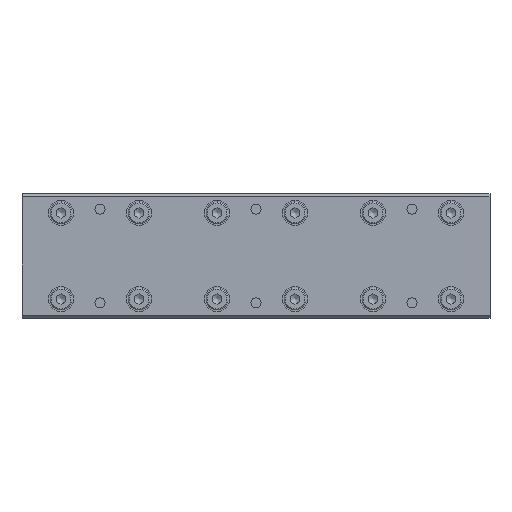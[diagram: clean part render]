
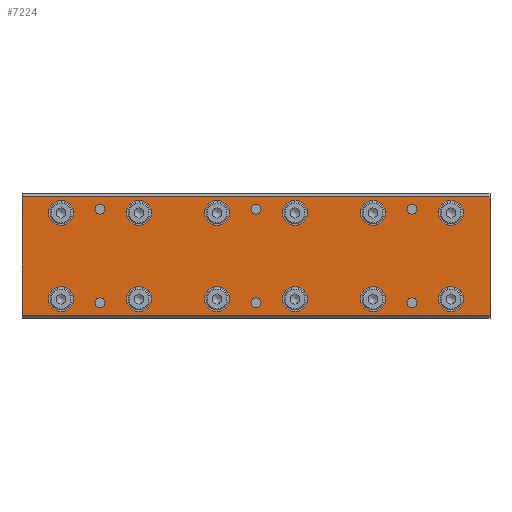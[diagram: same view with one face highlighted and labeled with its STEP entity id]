
A CAD part, top view. The second image highlights one B-rep face of the part: STEP entity #7224.
In plain terms, the highlighted planar face has unit normal (0, 0, 1).
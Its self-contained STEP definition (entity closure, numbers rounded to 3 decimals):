
#5826=CARTESIAN_POINT('',(150.0,19.0,10.));
#5827=VERTEX_POINT('',#5826);
#5834=CARTESIAN_POINT('',(150.0,-19.0,10.));
#5835=VERTEX_POINT('',#5834);
#5836=CARTESIAN_POINT('',(150.0,-19.0,10.));
#5837=DIRECTION('',(0.0,1.0,0.0));
#5838=VECTOR('',#5837,38.0);
#5839=LINE('',#5836,#5838);
#5840=EDGE_CURVE('',#5835,#5827,#5839,.T.);
#5979=CARTESIAN_POINT('',(16.5,-13.8,10.));
#5980=VERTEX_POINT('',#5979);
#5981=CARTESIAN_POINT('',(12.5,-13.8,10.));
#5982=DIRECTION('',(0.0,0.0,-1.0));
#5983=DIRECTION('',(1.0,0.0,0.0));
#5984=AXIS2_PLACEMENT_3D('',#5981,#5982,#5983);
#5985=CIRCLE('',#5984,4.0);
#5986=EDGE_CURVE('',#5980,#5980,#5985,.T.);
#6048=CARTESIAN_POINT('',(16.5,13.8,10.));
#6049=VERTEX_POINT('',#6048);
#6050=CARTESIAN_POINT('',(12.5,13.8,10.));
#6051=DIRECTION('',(0.0,0.0,-1.0));
#6052=DIRECTION('',(1.0,0.0,0.0));
#6053=AXIS2_PLACEMENT_3D('',#6050,#6051,#6052);
#6054=CIRCLE('',#6053,4.0);
#6055=EDGE_CURVE('',#6049,#6049,#6054,.T.);
#6129=CARTESIAN_POINT('',(41.5,-13.8,10.));
#6130=VERTEX_POINT('',#6129);
#6131=CARTESIAN_POINT('',(37.5,-13.8,10.));
#6132=DIRECTION('',(0.0,0.0,-1.0));
#6133=DIRECTION('',(1.0,0.0,0.0));
#6134=AXIS2_PLACEMENT_3D('',#6131,#6132,#6133);
#6135=CIRCLE('',#6134,4.0);
#6136=EDGE_CURVE('',#6130,#6130,#6135,.T.);
#6170=CARTESIAN_POINT('',(41.5,13.8,10.));
#6171=VERTEX_POINT('',#6170);
#6172=CARTESIAN_POINT('',(37.5,13.8,10.));
#6173=DIRECTION('',(0.0,0.0,-1.0));
#6174=DIRECTION('',(1.0,0.0,0.0));
#6175=AXIS2_PLACEMENT_3D('',#6172,#6173,#6174);
#6176=CIRCLE('',#6175,4.0);
#6177=EDGE_CURVE('',#6171,#6171,#6176,.T.);
#6251=CARTESIAN_POINT('',(66.5,-13.8,10.));
#6252=VERTEX_POINT('',#6251);
#6253=CARTESIAN_POINT('',(62.5,-13.8,10.));
#6254=DIRECTION('',(0.0,0.0,-1.0));
#6255=DIRECTION('',(1.0,0.0,0.0));
#6256=AXIS2_PLACEMENT_3D('',#6253,#6254,#6255);
#6257=CIRCLE('',#6256,4.0);
#6258=EDGE_CURVE('',#6252,#6252,#6257,.T.);
#6292=CARTESIAN_POINT('',(66.5,13.8,10.));
#6293=VERTEX_POINT('',#6292);
#6294=CARTESIAN_POINT('',(62.5,13.8,10.));
#6295=DIRECTION('',(0.0,0.0,-1.0));
#6296=DIRECTION('',(1.0,0.0,0.0));
#6297=AXIS2_PLACEMENT_3D('',#6294,#6295,#6296);
#6298=CIRCLE('',#6297,4.0);
#6299=EDGE_CURVE('',#6293,#6293,#6298,.T.);
#6373=CARTESIAN_POINT('',(91.5,-13.8,10.));
#6374=VERTEX_POINT('',#6373);
#6375=CARTESIAN_POINT('',(87.5,-13.8,10.));
#6376=DIRECTION('',(0.0,0.0,-1.0));
#6377=DIRECTION('',(1.0,0.0,0.0));
#6378=AXIS2_PLACEMENT_3D('',#6375,#6376,#6377);
#6379=CIRCLE('',#6378,4.0);
#6380=EDGE_CURVE('',#6374,#6374,#6379,.T.);
#6414=CARTESIAN_POINT('',(91.5,13.8,10.));
#6415=VERTEX_POINT('',#6414);
#6416=CARTESIAN_POINT('',(87.5,13.8,10.));
#6417=DIRECTION('',(0.0,0.0,-1.0));
#6418=DIRECTION('',(1.0,0.0,0.0));
#6419=AXIS2_PLACEMENT_3D('',#6416,#6417,#6418);
#6420=CIRCLE('',#6419,4.0);
#6421=EDGE_CURVE('',#6415,#6415,#6420,.T.);
#6495=CARTESIAN_POINT('',(116.5,-13.8,10.));
#6496=VERTEX_POINT('',#6495);
#6497=CARTESIAN_POINT('',(112.5,-13.8,10.));
#6498=DIRECTION('',(0.0,0.0,-1.0));
#6499=DIRECTION('',(1.0,0.0,0.0));
#6500=AXIS2_PLACEMENT_3D('',#6497,#6498,#6499);
#6501=CIRCLE('',#6500,4.0);
#6502=EDGE_CURVE('',#6496,#6496,#6501,.T.);
#6536=CARTESIAN_POINT('',(116.5,13.8,10.));
#6537=VERTEX_POINT('',#6536);
#6538=CARTESIAN_POINT('',(112.5,13.8,10.));
#6539=DIRECTION('',(0.0,0.0,-1.0));
#6540=DIRECTION('',(1.0,0.0,0.0));
#6541=AXIS2_PLACEMENT_3D('',#6538,#6539,#6540);
#6542=CIRCLE('',#6541,4.0);
#6543=EDGE_CURVE('',#6537,#6537,#6542,.T.);
#6617=CARTESIAN_POINT('',(141.5,-13.8,10.));
#6618=VERTEX_POINT('',#6617);
#6619=CARTESIAN_POINT('',(137.5,-13.8,10.));
#6620=DIRECTION('',(0.0,0.0,-1.0));
#6621=DIRECTION('',(1.0,0.0,0.0));
#6622=AXIS2_PLACEMENT_3D('',#6619,#6620,#6621);
#6623=CIRCLE('',#6622,4.0);
#6624=EDGE_CURVE('',#6618,#6618,#6623,.T.);
#6658=CARTESIAN_POINT('',(141.5,13.8,10.));
#6659=VERTEX_POINT('',#6658);
#6660=CARTESIAN_POINT('',(137.5,13.8,10.));
#6661=DIRECTION('',(0.0,0.0,-1.0));
#6662=DIRECTION('',(1.0,0.0,0.0));
#6663=AXIS2_PLACEMENT_3D('',#6660,#6661,#6662);
#6664=CIRCLE('',#6663,4.0);
#6665=EDGE_CURVE('',#6659,#6659,#6664,.T.);
#6730=CARTESIAN_POINT('',(26.621,-15.,10.));
#6731=VERTEX_POINT('',#6730);
#6732=CARTESIAN_POINT('',(25.,-15.,10.));
#6733=DIRECTION('',(0.0,0.0,-1.0));
#6734=DIRECTION('',(1.0,0.0,0.0));
#6735=AXIS2_PLACEMENT_3D('',#6732,#6733,#6734);
#6736=CIRCLE('',#6735,1.621);
#6737=EDGE_CURVE('',#6731,#6731,#6736,.T.);
#6779=CARTESIAN_POINT('',(26.621,15.,10.));
#6780=VERTEX_POINT('',#6779);
#6781=CARTESIAN_POINT('',(25.0,15.,10.));
#6782=DIRECTION('',(0.0,0.0,-1.0));
#6783=DIRECTION('',(1.0,0.0,0.0));
#6784=AXIS2_PLACEMENT_3D('',#6781,#6782,#6783);
#6785=CIRCLE('',#6784,1.621);
#6786=EDGE_CURVE('',#6780,#6780,#6785,.T.);
#6828=CARTESIAN_POINT('',(76.621,-15.,10.));
#6829=VERTEX_POINT('',#6828);
#6830=CARTESIAN_POINT('',(75.,-15.,10.));
#6831=DIRECTION('',(0.0,0.0,-1.0));
#6832=DIRECTION('',(1.0,0.0,0.0));
#6833=AXIS2_PLACEMENT_3D('',#6830,#6831,#6832);
#6834=CIRCLE('',#6833,1.621);
#6835=EDGE_CURVE('',#6829,#6829,#6834,.T.);
#6877=CARTESIAN_POINT('',(76.621,15.,10.));
#6878=VERTEX_POINT('',#6877);
#6879=CARTESIAN_POINT('',(75.0,15.,10.));
#6880=DIRECTION('',(0.0,0.0,-1.0));
#6881=DIRECTION('',(1.0,0.0,0.0));
#6882=AXIS2_PLACEMENT_3D('',#6879,#6880,#6881);
#6883=CIRCLE('',#6882,1.621);
#6884=EDGE_CURVE('',#6878,#6878,#6883,.T.);
#6926=CARTESIAN_POINT('',(126.621,-15.,10.));
#6927=VERTEX_POINT('',#6926);
#6928=CARTESIAN_POINT('',(125.0,-15.,10.));
#6929=DIRECTION('',(0.0,0.0,-1.0));
#6930=DIRECTION('',(1.0,0.0,0.0));
#6931=AXIS2_PLACEMENT_3D('',#6928,#6929,#6930);
#6932=CIRCLE('',#6931,1.621);
#6933=EDGE_CURVE('',#6927,#6927,#6932,.T.);
#6975=CARTESIAN_POINT('',(126.621,15.,10.));
#6976=VERTEX_POINT('',#6975);
#6977=CARTESIAN_POINT('',(125.0,15.,10.));
#6978=DIRECTION('',(0.0,0.0,-1.0));
#6979=DIRECTION('',(1.0,0.0,0.0));
#6980=AXIS2_PLACEMENT_3D('',#6977,#6978,#6979);
#6981=CIRCLE('',#6980,1.621);
#6982=EDGE_CURVE('',#6976,#6976,#6981,.T.);
#7130=CARTESIAN_POINT('',(0.0,19.0,10.));
#7131=VERTEX_POINT('',#7130);
#7138=CARTESIAN_POINT('',(0.0,19.0,10.));
#7139=DIRECTION('',(1.0,0.0,0.0));
#7140=VECTOR('',#7139,150.0);
#7141=LINE('',#7138,#7140);
#7142=EDGE_CURVE('',#7131,#5827,#7141,.T.);
#7147=CARTESIAN_POINT('',(0.0,-20.0,10.));
#7148=DIRECTION('',(0.0,0.0,1.0));
#7149=DIRECTION('',(1.0,0.0,0.0));
#7150=AXIS2_PLACEMENT_3D('',#7147,#7148,#7149);
#7151=PLANE('',#7150);
#7152=CARTESIAN_POINT('',(0.0,-19.0,10.));
#7153=VERTEX_POINT('',#7152);
#7154=CARTESIAN_POINT('',(150.0,-19.0,10.));
#7155=DIRECTION('',(-1.0,0.0,0.0));
#7156=VECTOR('',#7155,150.0);
#7157=LINE('',#7154,#7156);
#7158=EDGE_CURVE('',#5835,#7153,#7157,.T.);
#7159=ORIENTED_EDGE('',*,*,#7158,.F.);
#7160=ORIENTED_EDGE('',*,*,#5840,.T.);
#7161=ORIENTED_EDGE('',*,*,#7142,.F.);
#7162=CARTESIAN_POINT('',(0.0,19.0,10.));
#7163=DIRECTION('',(0.0,-1.0,0.0));
#7164=VECTOR('',#7163,38.0);
#7165=LINE('',#7162,#7164);
#7166=EDGE_CURVE('',#7131,#7153,#7165,.T.);
#7167=ORIENTED_EDGE('',*,*,#7166,.T.);
#7168=EDGE_LOOP('',(#7159,#7160,#7161,#7167));
#7169=FACE_OUTER_BOUND('',#7168,.T.);
#7170=ORIENTED_EDGE('',*,*,#6982,.T.);
#7171=EDGE_LOOP('',(#7170));
#7172=FACE_BOUND('',#7171,.T.);
#7173=ORIENTED_EDGE('',*,*,#6933,.T.);
#7174=EDGE_LOOP('',(#7173));
#7175=FACE_BOUND('',#7174,.T.);
#7176=ORIENTED_EDGE('',*,*,#6884,.T.);
#7177=EDGE_LOOP('',(#7176));
#7178=FACE_BOUND('',#7177,.T.);
#7179=ORIENTED_EDGE('',*,*,#6835,.T.);
#7180=EDGE_LOOP('',(#7179));
#7181=FACE_BOUND('',#7180,.T.);
#7182=ORIENTED_EDGE('',*,*,#6786,.T.);
#7183=EDGE_LOOP('',(#7182));
#7184=FACE_BOUND('',#7183,.T.);
#7185=ORIENTED_EDGE('',*,*,#6737,.T.);
#7186=EDGE_LOOP('',(#7185));
#7187=FACE_BOUND('',#7186,.T.);
#7188=ORIENTED_EDGE('',*,*,#6665,.T.);
#7189=EDGE_LOOP('',(#7188));
#7190=FACE_BOUND('',#7189,.T.);
#7191=ORIENTED_EDGE('',*,*,#6624,.T.);
#7192=EDGE_LOOP('',(#7191));
#7193=FACE_BOUND('',#7192,.T.);
#7194=ORIENTED_EDGE('',*,*,#6543,.T.);
#7195=EDGE_LOOP('',(#7194));
#7196=FACE_BOUND('',#7195,.T.);
#7197=ORIENTED_EDGE('',*,*,#6502,.T.);
#7198=EDGE_LOOP('',(#7197));
#7199=FACE_BOUND('',#7198,.T.);
#7200=ORIENTED_EDGE('',*,*,#6421,.T.);
#7201=EDGE_LOOP('',(#7200));
#7202=FACE_BOUND('',#7201,.T.);
#7203=ORIENTED_EDGE('',*,*,#6380,.T.);
#7204=EDGE_LOOP('',(#7203));
#7205=FACE_BOUND('',#7204,.T.);
#7206=ORIENTED_EDGE('',*,*,#6299,.T.);
#7207=EDGE_LOOP('',(#7206));
#7208=FACE_BOUND('',#7207,.T.);
#7209=ORIENTED_EDGE('',*,*,#6258,.T.);
#7210=EDGE_LOOP('',(#7209));
#7211=FACE_BOUND('',#7210,.T.);
#7212=ORIENTED_EDGE('',*,*,#6177,.T.);
#7213=EDGE_LOOP('',(#7212));
#7214=FACE_BOUND('',#7213,.T.);
#7215=ORIENTED_EDGE('',*,*,#6136,.T.);
#7216=EDGE_LOOP('',(#7215));
#7217=FACE_BOUND('',#7216,.T.);
#7218=ORIENTED_EDGE('',*,*,#6055,.T.);
#7219=EDGE_LOOP('',(#7218));
#7220=FACE_BOUND('',#7219,.T.);
#7221=ORIENTED_EDGE('',*,*,#5986,.T.);
#7222=EDGE_LOOP('',(#7221));
#7223=FACE_BOUND('',#7222,.T.);
#7224=ADVANCED_FACE('',(#7169,#7172,#7175,#7178,#7181,#7184,#7187,#7190,#7193,#7196,#7199,#7202,#7205,#7208,#7211,#7214,#7217,#7220,#7223),#7151,.T.);
